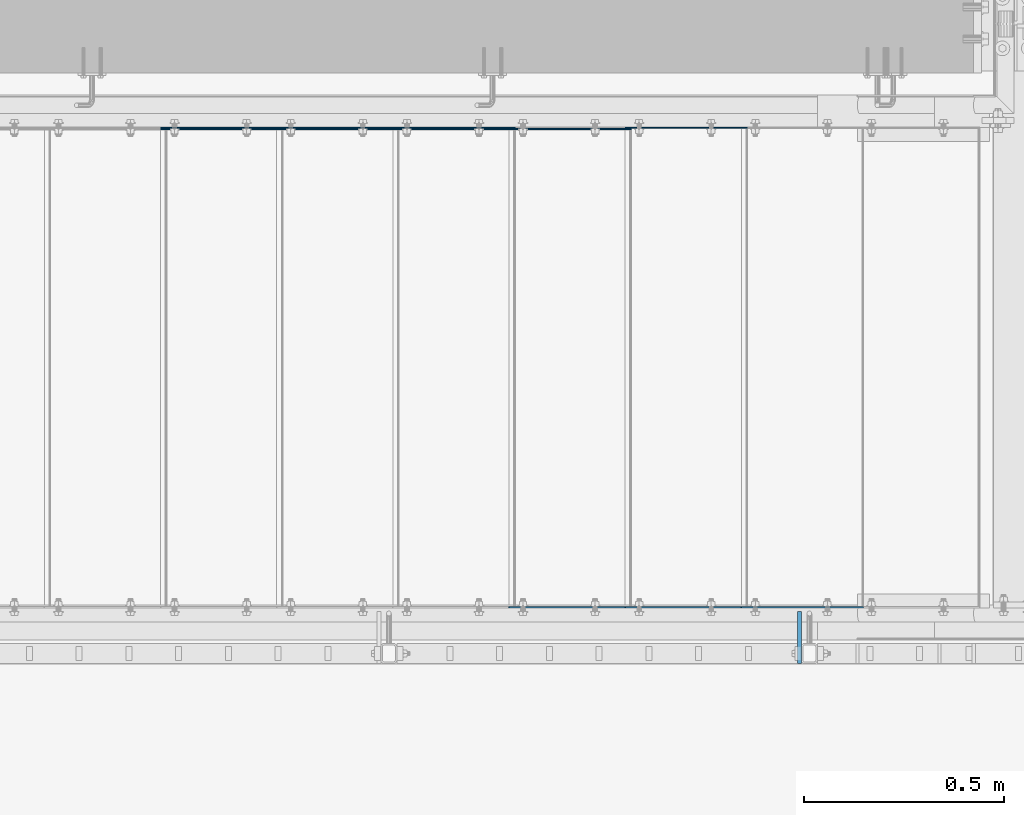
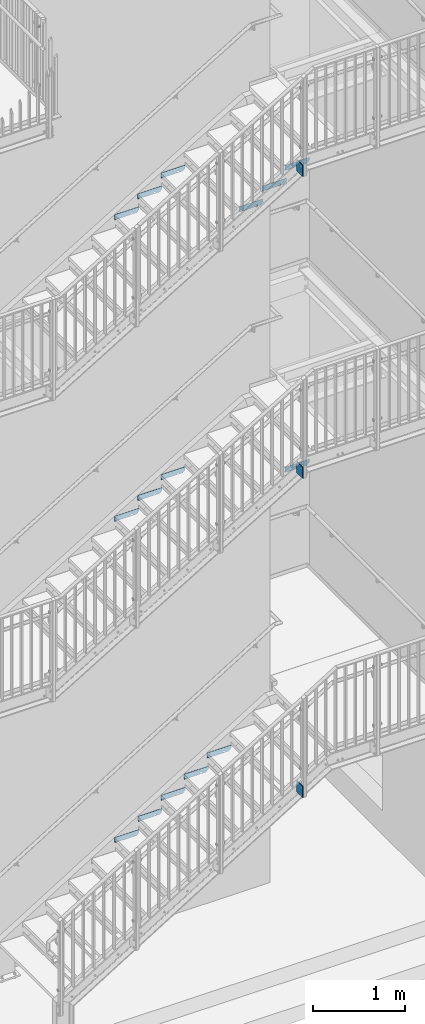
# One storey, part 60 of 410: 18 plates, 36 openings.
"""IFC2X3 building model written with IfcOpenShell, lengths in millimetres."""

from ifc_helpers import new_model, entity, si_unit, converted_unit, point, frame, frame_2d, origin, origin_with_axes, origin_2d_with_axis, place, context, project, spatial, polyline, circle_curve, line_curve, trimmed, segment, composite_curve, circle, outline, extrude, material, layer, layer_set, element, save


model = new_model("IFC2X3")

# Units and contexts
model_context = context("Model", 3, precision=1e-09, world=origin_with_axes())
ifc_project = project(units=[si_unit("LENGTHUNIT", "METRE", prefix="MILLI"), si_unit("AREAUNIT", "SQUARE_METRE"), si_unit("VOLUMEUNIT", "CUBIC_METRE"), converted_unit("PLANEANGLEUNIT", "DEGREE", entity("IfcPlaneAngleMeasure", 0.01745329), si_unit("PLANEANGLEUNIT", "RADIAN"), dimensions=[0, 0, 0, 0, 0, 0, 0])], contexts=[model_context])

# Site, building, storey
site_placement = place(None, origin_with_axes())
site = spatial("IfcSite", under=ifc_project, at=site_placement, Name="mKR Teilneubau & Sanierung BA1 - Ostfildern", CompositionType="ELEMENT")
building_placement = place(site_placement, origin_with_axes())
building = spatial("IfcBuilding", under=site, at=building_placement, Name="Struktur 1", CompositionType="ELEMENT")
storey_placement = place(building_placement, origin_with_axes())
storey = spatial("IfcBuildingStorey", under=building, at=storey_placement, Name="Default Storey", CompositionType="ELEMENT", Elevation=0.0)

# Plate, openings
ifc_material = material(Name="S235JR")
ifc_layer_1 = layer(ifc_material, 3.0)
ifc_layer_set_1 = layer_set([ifc_layer_1], Name="S235JR")
plate_1_placement = place(None, frame((-255.0, 16716.999999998, -3397.2), z_axis=(0.0, -1.0, 0.0), x_axis=(0.0, 0.0, -1.0)))
plate_1 = element("IfcPlate", 1, at=plate_1_placement, inside=storey, material=ifc_layer_set_1, Name="Grate_Step#2", ObjectType="Grate_Step#2", context=model_context, shape_type="SweptSolid", body=[
    extrude(outline(polyline([(0.0, 0.0), (70.0, 0.0), (70.0, 275.0), (40.0, 305.0), (0.0, 305.0), (0.0, 0.0)])), origin_with_axes(), (0.0, 0.0, 1.0), 3.0),
])
opening_1_placement = place(plate_1_placement, frame((55.0, 35.0, 3.5), z_axis=(0.0, 0.0, -1.0), x_axis=(0.0, 1.0, 0.0)))
element("IfcOpeningElement", 2, at=opening_1_placement, cuts=plate_1, ObjectType="Opening", context=model_context, shape_type="SweptSolid", body=[
    extrude(circle(Radius=7.001, at=origin_2d_with_axis()), origin(), (0.0, 0.0, 1.0), 4.0),
])
opening_2_placement = place(plate_1_placement, frame((55.0, 215.0, 3.5), z_axis=(0.0, 0.0, -1.0), x_axis=(0.0, 1.0, 0.0)))
element("IfcOpeningElement", 3, at=opening_2_placement, cuts=plate_1, ObjectType="Opening", context=model_context, shape_type="SweptSolid", body=[
    extrude(outline(composite_curve([segment(trimmed(line_curve((-9.5, -7.001), (1.0, 0.0), 19.0), [point((-9.5, -7.001))], [point((9.5, -7.001))], True, "CARTESIAN"), True, "CONTINUOUS"), segment(trimmed(circle_curve(frame_2d((9.5, 0.0), x_axis=(1.0, 0.0)), 7.001), [point((9.5, -7.001))], [point((9.5, 7.001))], True, "CARTESIAN"), True, "CONTINUOUS"), segment(trimmed(line_curve((9.5, 7.001), (-1.0, 0.0), 19.0), [point((9.5, 7.001))], [point((-9.5, 7.001))], True, "CARTESIAN"), True, "CONTINUOUS"), segment(trimmed(circle_curve(frame_2d((-9.5, 0.0), x_axis=(1.0, 0.0)), 7.001), [point((-9.5, 7.001))], [point((-9.5, -7.001))], True, "CARTESIAN"), True, "CONTINUOUS")], self_intersect=False)), origin(), (0.0, 0.0, 1.0), 4.0),
])

plate_2_placement = place(None, frame((35.0, 16716.999999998, -3218.4), z_axis=(0.0, -1.0, 0.0), x_axis=(0.0, 0.0, -1.0)))
plate_2 = element("IfcPlate", 4, at=plate_2_placement, inside=storey, material=ifc_layer_set_1, Name="Grate_Step#2", ObjectType="Grate_Step#2", context=model_context, shape_type="SweptSolid", body=[
    extrude(outline(polyline([(0.0, 0.0), (70.0, 0.0), (70.0, 275.0), (40.0, 305.0), (0.0, 305.0), (0.0, 0.0)])), origin_with_axes(), (0.0, 0.0, 1.0), 3.0),
])
opening_3_placement = place(plate_2_placement, frame((55.0, 215.0, 3.5), z_axis=(0.0, 0.0, -1.0), x_axis=(0.0, 1.0, 0.0)))
element("IfcOpeningElement", 5, at=opening_3_placement, cuts=plate_2, ObjectType="Opening", context=model_context, shape_type="SweptSolid", body=[
    extrude(outline(composite_curve([segment(trimmed(line_curve((-9.5, -7.001), (1.0, 0.0), 19.0), [point((-9.5, -7.001))], [point((9.5, -7.001))], True, "CARTESIAN"), True, "CONTINUOUS"), segment(trimmed(circle_curve(frame_2d((9.5, 0.0), x_axis=(1.0, 0.0)), 7.001), [point((9.5, -7.001))], [point((9.5, 7.001))], True, "CARTESIAN"), True, "CONTINUOUS"), segment(trimmed(line_curve((9.5, 7.001), (-1.0, 0.0), 19.0), [point((9.5, 7.001))], [point((-9.5, 7.001))], True, "CARTESIAN"), True, "CONTINUOUS"), segment(trimmed(circle_curve(frame_2d((-9.5, 0.0), x_axis=(1.0, 0.0)), 7.001), [point((-9.5, 7.001))], [point((-9.5, -7.001))], True, "CARTESIAN"), True, "CONTINUOUS")], self_intersect=False)), origin(), (0.0, 0.0, 1.0), 4.0),
])
opening_4_placement = place(plate_2_placement, frame((55.0, 35.0, 3.5), z_axis=(0.0, 0.0, -1.0), x_axis=(0.0, 1.0, 0.0)))
element("IfcOpeningElement", 6, at=opening_4_placement, cuts=plate_2, ObjectType="Opening", context=model_context, shape_type="SweptSolid", body=[
    extrude(circle(Radius=7.001, at=origin_2d_with_axis()), origin(), (0.0, 0.0, 1.0), 4.0),
])

plate_3_placement = place(None, frame((325.0, 16716.999999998, -3039.6), z_axis=(0.0, -1.0, 0.0), x_axis=(0.0, 0.0, -1.0)))
plate_3 = element("IfcPlate", 7, at=plate_3_placement, inside=storey, material=ifc_layer_set_1, Name="Grate_Step#2", ObjectType="Grate_Step#2", context=model_context, shape_type="SweptSolid", body=[
    extrude(outline(polyline([(0.0, 0.0), (70.0, 0.0), (70.0, 275.0), (40.0, 305.0), (0.0, 305.0), (0.0, 0.0)])), origin_with_axes(), (0.0, 0.0, 1.0), 3.0),
])
opening_5_placement = place(plate_3_placement, frame((55.0, 35.0, 3.5), z_axis=(0.0, 0.0, -1.0), x_axis=(0.0, 1.0, 0.0)))
element("IfcOpeningElement", 8, at=opening_5_placement, cuts=plate_3, ObjectType="Opening", context=model_context, shape_type="SweptSolid", body=[
    extrude(circle(Radius=7.001, at=origin_2d_with_axis()), origin(), (0.0, 0.0, 1.0), 4.0),
])
opening_6_placement = place(plate_3_placement, frame((55.0, 215.0, 3.5), z_axis=(0.0, 0.0, -1.0), x_axis=(0.0, 1.0, 0.0)))
element("IfcOpeningElement", 9, at=opening_6_placement, cuts=plate_3, ObjectType="Opening", context=model_context, shape_type="SweptSolid", body=[
    extrude(outline(composite_curve([segment(trimmed(line_curve((-9.5, -7.001), (1.0, 0.0), 19.0), [point((-9.5, -7.001))], [point((9.5, -7.001))], True, "CARTESIAN"), True, "CONTINUOUS"), segment(trimmed(circle_curve(frame_2d((9.5, 0.0), x_axis=(1.0, 0.0)), 7.001), [point((9.5, -7.001))], [point((9.5, 7.001))], True, "CARTESIAN"), True, "CONTINUOUS"), segment(trimmed(line_curve((9.5, 7.001), (-1.0, 0.0), 19.0), [point((9.5, 7.001))], [point((-9.5, 7.001))], True, "CARTESIAN"), True, "CONTINUOUS"), segment(trimmed(circle_curve(frame_2d((-9.5, 0.0), x_axis=(1.0, 0.0)), 7.001), [point((-9.5, 7.001))], [point((-9.5, -7.001))], True, "CARTESIAN"), True, "CONTINUOUS")], self_intersect=False)), origin(), (0.0, 0.0, 1.0), 4.0),
])

plate_4_placement = place(None, frame((615.0, 16716.999999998, -2860.8), z_axis=(0.0, -1.0, 0.0), x_axis=(0.0, 0.0, -1.0)))
plate_4 = element("IfcPlate", 10, at=plate_4_placement, inside=storey, material=ifc_layer_set_1, Name="Grate_Step#2", ObjectType="Grate_Step#2", context=model_context, shape_type="SweptSolid", body=[
    extrude(outline(polyline([(0.0, 0.0), (70.0, 0.0), (70.0, 275.0), (40.0, 305.0), (0.0, 305.0), (0.0, 0.0)])), origin_with_axes(), (0.0, 0.0, 1.0), 3.0),
])
opening_7_placement = place(plate_4_placement, frame((55.0, 35.0, 3.5), z_axis=(0.0, 0.0, -1.0), x_axis=(0.0, 1.0, 0.0)))
element("IfcOpeningElement", 11, at=opening_7_placement, cuts=plate_4, ObjectType="Opening", context=model_context, shape_type="SweptSolid", body=[
    extrude(circle(Radius=7.001, at=origin_2d_with_axis()), origin(), (0.0, 0.0, 1.0), 4.0),
])
opening_8_placement = place(plate_4_placement, frame((55.0, 215.0, 3.5), z_axis=(0.0, 0.0, -1.0), x_axis=(0.0, 1.0, 0.0)))
element("IfcOpeningElement", 12, at=opening_8_placement, cuts=plate_4, ObjectType="Opening", context=model_context, shape_type="SweptSolid", body=[
    extrude(outline(composite_curve([segment(trimmed(line_curve((-9.5, -7.001), (1.0, 0.0), 19.0), [point((-9.5, -7.001))], [point((9.5, -7.001))], True, "CARTESIAN"), True, "CONTINUOUS"), segment(trimmed(circle_curve(frame_2d((9.5, 0.0), x_axis=(1.0, 0.0)), 7.001), [point((9.5, -7.001))], [point((9.5, 7.001))], True, "CARTESIAN"), True, "CONTINUOUS"), segment(trimmed(line_curve((9.5, 7.001), (-1.0, 0.0), 19.0), [point((9.5, 7.001))], [point((-9.5, 7.001))], True, "CARTESIAN"), True, "CONTINUOUS"), segment(trimmed(circle_curve(frame_2d((-9.5, 0.0), x_axis=(1.0, 0.0)), 7.001), [point((-9.5, 7.001))], [point((-9.5, -7.001))], True, "CARTESIAN"), True, "CONTINUOUS")], self_intersect=False)), origin(), (0.0, 0.0, 1.0), 4.0),
])

plate_5_placement = place(None, frame((905.0, 16719.999999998, -2682.0), z_axis=(0.0, -1.0, 0.0), x_axis=(0.0, 0.0, -1.0)))
plate_5 = element("IfcPlate", 13, at=plate_5_placement, inside=storey, material=ifc_layer_set_1, Name="Grate_Step#2", ObjectType="Grate_Step#2", context=model_context, shape_type="SweptSolid", body=[
    extrude(outline(polyline([(0.0, 0.0), (70.0, 0.0), (70.0, 275.0), (40.0, 305.0), (0.0, 305.0), (0.0, 0.0)])), origin_with_axes(), (0.0, 0.0, 1.0), 3.0),
])
opening_9_placement = place(plate_5_placement, frame((55.0, 215.0, 3.5), z_axis=(0.0, 0.0, -1.0), x_axis=(0.0, 1.0, 0.0)))
element("IfcOpeningElement", 14, at=opening_9_placement, cuts=plate_5, ObjectType="Opening", context=model_context, shape_type="SweptSolid", body=[
    extrude(outline(composite_curve([segment(trimmed(line_curve((-9.5, -7.001), (1.0, 0.0), 19.0), [point((-9.5, -7.001))], [point((9.5, -7.001))], True, "CARTESIAN"), True, "CONTINUOUS"), segment(trimmed(circle_curve(frame_2d((9.5, 0.0), x_axis=(1.0, 0.0)), 7.001), [point((9.5, -7.001))], [point((9.5, 7.001))], True, "CARTESIAN"), True, "CONTINUOUS"), segment(trimmed(line_curve((9.5, 7.001), (-1.0, 0.0), 19.0), [point((9.5, 7.001))], [point((-9.5, 7.001))], True, "CARTESIAN"), True, "CONTINUOUS"), segment(trimmed(circle_curve(frame_2d((-9.5, 0.0), x_axis=(1.0, 0.0)), 7.001), [point((-9.5, 7.001))], [point((-9.5, -7.001))], True, "CARTESIAN"), True, "CONTINUOUS")], self_intersect=False)), origin(), (0.0, 0.0, 1.0), 4.0),
])
opening_10_placement = place(plate_5_placement, frame((55.0, 35.0, 3.5), z_axis=(0.0, 0.0, -1.0), x_axis=(0.0, 1.0, 0.0)))
element("IfcOpeningElement", 15, at=opening_10_placement, cuts=plate_5, ObjectType="Opening", context=model_context, shape_type="SweptSolid", body=[
    extrude(circle(Radius=7.001, at=origin_2d_with_axis()), origin(), (0.0, 0.0, 1.0), 4.0),
])

plate_6_placement = place(None, frame((-255.0, 16719.999999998, 869.5652175), z_axis=(0.0, -1.0, 0.0), x_axis=(0.0, 0.0, -1.0)))
plate_6 = element("IfcPlate", 16, at=plate_6_placement, inside=storey, material=ifc_layer_set_1, Name="Grate_Step#2", ObjectType="Grate_Step#2", context=model_context, shape_type="SweptSolid", body=[
    extrude(outline(polyline([(0.0, 0.0), (70.0, 0.0), (70.0, 275.0), (40.0, 305.0), (0.0, 305.0), (0.0, 0.0)])), origin_with_axes(), (0.0, 0.0, 1.0), 3.0),
])
opening_11_placement = place(plate_6_placement, frame((55.0, 35.0, 3.5), z_axis=(0.0, 0.0, -1.0), x_axis=(0.0, 1.0, 0.0)))
element("IfcOpeningElement", 17, at=opening_11_placement, cuts=plate_6, ObjectType="Opening", context=model_context, shape_type="SweptSolid", body=[
    extrude(circle(Radius=7.001, at=origin_2d_with_axis()), origin(), (0.0, 0.0, 1.0), 4.0),
])
opening_12_placement = place(plate_6_placement, frame((55.0, 215.0, 3.5), z_axis=(0.0, 0.0, -1.0), x_axis=(0.0, 1.0, 0.0)))
element("IfcOpeningElement", 18, at=opening_12_placement, cuts=plate_6, ObjectType="Opening", context=model_context, shape_type="SweptSolid", body=[
    extrude(outline(composite_curve([segment(trimmed(line_curve((-9.5, -7.001), (1.0, 0.0), 19.0), [point((-9.5, -7.001))], [point((9.5, -7.001))], True, "CARTESIAN"), True, "CONTINUOUS"), segment(trimmed(circle_curve(frame_2d((9.5, 0.0), x_axis=(1.0, 0.0)), 7.001), [point((9.5, -7.001))], [point((9.5, 7.001))], True, "CARTESIAN"), True, "CONTINUOUS"), segment(trimmed(line_curve((9.5, 7.001), (-1.0, 0.0), 19.0), [point((9.5, 7.001))], [point((-9.5, 7.001))], True, "CARTESIAN"), True, "CONTINUOUS"), segment(trimmed(circle_curve(frame_2d((-9.5, 0.0), x_axis=(1.0, 0.0)), 7.001), [point((-9.5, 7.001))], [point((-9.5, -7.001))], True, "CARTESIAN"), True, "CONTINUOUS")], self_intersect=False)), origin(), (0.0, 0.0, 1.0), 4.0),
])

plate_7_placement = place(None, frame((35.0, 16719.999999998, 1043.478261), z_axis=(0.0, -1.0, 0.0), x_axis=(0.0, 0.0, -1.0)))
plate_7 = element("IfcPlate", 19, at=plate_7_placement, inside=storey, material=ifc_layer_set_1, Name="Grate_Step#2", ObjectType="Grate_Step#2", context=model_context, shape_type="SweptSolid", body=[
    extrude(outline(polyline([(0.0, 0.0), (70.0, 0.0), (70.0, 275.0), (40.0, 305.0), (0.0, 305.0), (0.0, 0.0)])), origin_with_axes(), (0.0, 0.0, 1.0), 3.0),
])
opening_13_placement = place(plate_7_placement, frame((55.0, 35.0, 3.5), z_axis=(0.0, 0.0, -1.0), x_axis=(0.0, 1.0, 0.0)))
element("IfcOpeningElement", 20, at=opening_13_placement, cuts=plate_7, ObjectType="Opening", context=model_context, shape_type="SweptSolid", body=[
    extrude(circle(Radius=7.001, at=origin_2d_with_axis()), origin(), (0.0, 0.0, 1.0), 4.0),
])
opening_14_placement = place(plate_7_placement, frame((55.0, 215.0, 3.5), z_axis=(0.0, 0.0, -1.0), x_axis=(0.0, 1.0, 0.0)))
element("IfcOpeningElement", 21, at=opening_14_placement, cuts=plate_7, ObjectType="Opening", context=model_context, shape_type="SweptSolid", body=[
    extrude(outline(composite_curve([segment(trimmed(line_curve((-9.5, -7.001), (1.0, 0.0), 19.0), [point((-9.5, -7.001))], [point((9.5, -7.001))], True, "CARTESIAN"), True, "CONTINUOUS"), segment(trimmed(circle_curve(frame_2d((9.5, 0.0), x_axis=(1.0, 0.0)), 7.001), [point((9.5, -7.001))], [point((9.5, 7.001))], True, "CARTESIAN"), True, "CONTINUOUS"), segment(trimmed(line_curve((9.5, 7.001), (-1.0, 0.0), 19.0), [point((9.5, 7.001))], [point((-9.5, 7.001))], True, "CARTESIAN"), True, "CONTINUOUS"), segment(trimmed(circle_curve(frame_2d((-9.5, 0.0), x_axis=(1.0, 0.0)), 7.001), [point((-9.5, 7.001))], [point((-9.5, -7.001))], True, "CARTESIAN"), True, "CONTINUOUS")], self_intersect=False)), origin(), (0.0, 0.0, 1.0), 4.0),
])

plate_8_placement = place(None, frame((325.0, 16719.999999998, 1217.3913045), z_axis=(0.0, -1.0, 0.0), x_axis=(0.0, 0.0, -1.0)))
plate_8 = element("IfcPlate", 22, at=plate_8_placement, inside=storey, material=ifc_layer_set_1, Name="Grate_Step#2", ObjectType="Grate_Step#2", context=model_context, shape_type="SweptSolid", body=[
    extrude(outline(polyline([(0.0, 0.0), (70.0, 0.0), (70.0, 275.0), (40.0, 305.0), (0.0, 305.0), (0.0, 0.0)])), origin_with_axes(), (0.0, 0.0, 1.0), 3.0),
])
opening_15_placement = place(plate_8_placement, frame((55.0, 215.0, 3.5), z_axis=(0.0, 0.0, -1.0), x_axis=(0.0, 1.0, 0.0)))
element("IfcOpeningElement", 23, at=opening_15_placement, cuts=plate_8, ObjectType="Opening", context=model_context, shape_type="SweptSolid", body=[
    extrude(outline(composite_curve([segment(trimmed(line_curve((-9.5, -7.001), (1.0, 0.0), 19.0), [point((-9.5, -7.001))], [point((9.5, -7.001))], True, "CARTESIAN"), True, "CONTINUOUS"), segment(trimmed(circle_curve(frame_2d((9.5, 0.0), x_axis=(1.0, 0.0)), 7.001), [point((9.5, -7.001))], [point((9.5, 7.001))], True, "CARTESIAN"), True, "CONTINUOUS"), segment(trimmed(line_curve((9.5, 7.001), (-1.0, 0.0), 19.0), [point((9.5, 7.001))], [point((-9.5, 7.001))], True, "CARTESIAN"), True, "CONTINUOUS"), segment(trimmed(circle_curve(frame_2d((-9.5, 0.0), x_axis=(1.0, 0.0)), 7.001), [point((-9.5, 7.001))], [point((-9.5, -7.001))], True, "CARTESIAN"), True, "CONTINUOUS")], self_intersect=False)), origin(), (0.0, 0.0, 1.0), 4.0),
])
opening_16_placement = place(plate_8_placement, frame((55.0, 35.0, 3.5), z_axis=(0.0, 0.0, -1.0), x_axis=(0.0, 1.0, 0.0)))
element("IfcOpeningElement", 24, at=opening_16_placement, cuts=plate_8, ObjectType="Opening", context=model_context, shape_type="SweptSolid", body=[
    extrude(circle(Radius=7.001, at=origin_2d_with_axis()), origin(), (0.0, 0.0, 1.0), 4.0),
])

plate_9_placement = place(None, frame((1195.0, 15522.999999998, 1739.130435), z_axis=(0.0, -1.0, 0.0), x_axis=(0.0, 0.0, -1.0)))
plate_9 = element("IfcPlate", 25, at=plate_9_placement, inside=storey, material=ifc_layer_set_1, Name="Grate_Step#3", ObjectType="Grate_Step#3", context=model_context, shape_type="SweptSolid", body=[
    extrude(outline(polyline([(0.0, 0.0), (70.0, 0.0), (70.0, 275.0), (40.0, 305.0), (0.0, 305.0), (0.0, 0.0)])), origin_with_axes(), (0.0, 0.0, 1.0), 3.0),
])
opening_17_placement = place(plate_9_placement, frame((55.0, 215.0, -0.5), z_axis=(0.0, 0.0, 1.0), x_axis=(0.0, 1.0, 0.0)))
element("IfcOpeningElement", 26, at=opening_17_placement, cuts=plate_9, ObjectType="Opening", context=model_context, shape_type="SweptSolid", body=[
    extrude(outline(composite_curve([segment(trimmed(line_curve((-9.5, -7.001), (1.0, 0.0), 19.0), [point((-9.5, -7.001))], [point((9.5, -7.001))], True, "CARTESIAN"), True, "CONTINUOUS"), segment(trimmed(circle_curve(frame_2d((9.5, 0.0), x_axis=(1.0, 0.0)), 7.001), [point((9.5, -7.001))], [point((9.5, 7.001))], True, "CARTESIAN"), True, "CONTINUOUS"), segment(trimmed(line_curve((9.5, 7.001), (-1.0, 0.0), 19.0), [point((9.5, 7.001))], [point((-9.5, 7.001))], True, "CARTESIAN"), True, "CONTINUOUS"), segment(trimmed(circle_curve(frame_2d((-9.5, 0.0), x_axis=(1.0, 0.0)), 7.001), [point((-9.5, 7.001))], [point((-9.5, -7.001))], True, "CARTESIAN"), True, "CONTINUOUS")], self_intersect=False)), origin(), (0.0, 0.0, 1.0), 4.0),
])
opening_18_placement = place(plate_9_placement, frame((55.0, 35.0, -0.5), z_axis=(0.0, 0.0, 1.0), x_axis=(0.0, 1.0, 0.0)))
element("IfcOpeningElement", 27, at=opening_18_placement, cuts=plate_9, ObjectType="Opening", context=model_context, shape_type="SweptSolid", body=[
    extrude(circle(Radius=7.001, at=origin_2d_with_axis()), origin(), (0.0, 0.0, 1.0), 4.0),
])

plate_10_placement = place(None, frame((-255.0, 16719.999999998, 4875.0), z_axis=(0.0, -1.0, 0.0), x_axis=(0.0, 0.0, -1.0)))
plate_10 = element("IfcPlate", 28, at=plate_10_placement, inside=storey, material=ifc_layer_set_1, Name="Grate_Step#2", ObjectType="Grate_Step#2", context=model_context, shape_type="SweptSolid", body=[
    extrude(outline(polyline([(0.0, 0.0), (70.0, 0.0), (70.0, 275.0), (40.0, 305.0), (0.0, 305.0), (0.0, 0.0)])), origin_with_axes(), (0.0, 0.0, 1.0), 3.0),
])
opening_19_placement = place(plate_10_placement, frame((55.0, 35.0, 3.5), z_axis=(0.0, 0.0, -1.0), x_axis=(0.0, 1.0, 0.0)))
element("IfcOpeningElement", 29, at=opening_19_placement, cuts=plate_10, ObjectType="Opening", context=model_context, shape_type="SweptSolid", body=[
    extrude(circle(Radius=7.001, at=origin_2d_with_axis()), origin(), (0.0, 0.0, 1.0), 4.0),
])
opening_20_placement = place(plate_10_placement, frame((55.0, 215.0, 3.5), z_axis=(0.0, 0.0, -1.0), x_axis=(0.0, 1.0, 0.0)))
element("IfcOpeningElement", 30, at=opening_20_placement, cuts=plate_10, ObjectType="Opening", context=model_context, shape_type="SweptSolid", body=[
    extrude(outline(composite_curve([segment(trimmed(line_curve((-9.5, -7.001), (1.0, 0.0), 19.0), [point((-9.5, -7.001))], [point((9.5, -7.001))], True, "CARTESIAN"), True, "CONTINUOUS"), segment(trimmed(circle_curve(frame_2d((9.5, 0.0), x_axis=(1.0, 0.0)), 7.001), [point((9.5, -7.001))], [point((9.5, 7.001))], True, "CARTESIAN"), True, "CONTINUOUS"), segment(trimmed(line_curve((9.5, 7.001), (-1.0, 0.0), 19.0), [point((9.5, 7.001))], [point((-9.5, 7.001))], True, "CARTESIAN"), True, "CONTINUOUS"), segment(trimmed(circle_curve(frame_2d((-9.5, 0.0), x_axis=(1.0, 0.0)), 7.001), [point((-9.5, 7.001))], [point((-9.5, -7.001))], True, "CARTESIAN"), True, "CONTINUOUS")], self_intersect=False)), origin(), (0.0, 0.0, 1.0), 4.0),
])

plate_11_placement = place(None, frame((35.0, 16719.999999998, 5050.0), z_axis=(0.0, -1.0, 0.0), x_axis=(0.0, 0.0, -1.0)))
plate_11 = element("IfcPlate", 31, at=plate_11_placement, inside=storey, material=ifc_layer_set_1, Name="Grate_Step#2", ObjectType="Grate_Step#2", context=model_context, shape_type="SweptSolid", body=[
    extrude(outline(polyline([(0.0, 0.0), (70.0, 0.0), (70.0, 275.0), (40.0, 305.0), (0.0, 305.0), (0.0, 0.0)])), origin_with_axes(), (0.0, 0.0, 1.0), 3.0),
])
opening_21_placement = place(plate_11_placement, frame((55.0, 35.0, 3.5), z_axis=(0.0, 0.0, -1.0), x_axis=(0.0, 1.0, 0.0)))
element("IfcOpeningElement", 32, at=opening_21_placement, cuts=plate_11, ObjectType="Opening", context=model_context, shape_type="SweptSolid", body=[
    extrude(circle(Radius=7.001, at=origin_2d_with_axis()), origin(), (0.0, 0.0, 1.0), 4.0),
])
opening_22_placement = place(plate_11_placement, frame((55.0, 215.0, 3.5), z_axis=(0.0, 0.0, -1.0), x_axis=(0.0, 1.0, 0.0)))
element("IfcOpeningElement", 33, at=opening_22_placement, cuts=plate_11, ObjectType="Opening", context=model_context, shape_type="SweptSolid", body=[
    extrude(outline(composite_curve([segment(trimmed(line_curve((-9.5, -7.001), (1.0, 0.0), 19.0), [point((-9.5, -7.001))], [point((9.5, -7.001))], True, "CARTESIAN"), True, "CONTINUOUS"), segment(trimmed(circle_curve(frame_2d((9.5, 0.0), x_axis=(1.0, 0.0)), 7.001), [point((9.5, -7.001))], [point((9.5, 7.001))], True, "CARTESIAN"), True, "CONTINUOUS"), segment(trimmed(line_curve((9.5, 7.001), (-1.0, 0.0), 19.0), [point((9.5, 7.001))], [point((-9.5, 7.001))], True, "CARTESIAN"), True, "CONTINUOUS"), segment(trimmed(circle_curve(frame_2d((-9.5, 0.0), x_axis=(1.0, 0.0)), 7.001), [point((-9.5, 7.001))], [point((-9.5, -7.001))], True, "CARTESIAN"), True, "CONTINUOUS")], self_intersect=False)), origin(), (0.0, 0.0, 1.0), 4.0),
])

plate_12_placement = place(None, frame((325.0, 16719.999999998, 5225.0), z_axis=(0.0, -1.0, 0.0), x_axis=(0.0, 0.0, -1.0)))
plate_12 = element("IfcPlate", 34, at=plate_12_placement, inside=storey, material=ifc_layer_set_1, Name="Grate_Step#2", ObjectType="Grate_Step#2", context=model_context, shape_type="SweptSolid", body=[
    extrude(outline(polyline([(0.0, 0.0), (70.0, 0.0), (70.0, 275.0), (40.0, 305.0), (0.0, 305.0), (0.0, 0.0)])), origin_with_axes(), (0.0, 0.0, 1.0), 3.0),
])
opening_23_placement = place(plate_12_placement, frame((55.0, 35.0, 3.5), z_axis=(0.0, 0.0, -1.0), x_axis=(0.0, 1.0, 0.0)))
element("IfcOpeningElement", 35, at=opening_23_placement, cuts=plate_12, ObjectType="Opening", context=model_context, shape_type="SweptSolid", body=[
    extrude(circle(Radius=7.001, at=origin_2d_with_axis()), origin(), (0.0, 0.0, 1.0), 4.0),
])
opening_24_placement = place(plate_12_placement, frame((55.0, 215.0, 3.5), z_axis=(0.0, 0.0, -1.0), x_axis=(0.0, 1.0, 0.0)))
element("IfcOpeningElement", 36, at=opening_24_placement, cuts=plate_12, ObjectType="Opening", context=model_context, shape_type="SweptSolid", body=[
    extrude(outline(composite_curve([segment(trimmed(line_curve((-9.5, -7.001), (1.0, 0.0), 19.0), [point((-9.5, -7.001))], [point((9.5, -7.001))], True, "CARTESIAN"), True, "CONTINUOUS"), segment(trimmed(circle_curve(frame_2d((9.5, 0.0), x_axis=(1.0, 0.0)), 7.001), [point((9.5, -7.001))], [point((9.5, 7.001))], True, "CARTESIAN"), True, "CONTINUOUS"), segment(trimmed(line_curve((9.5, 7.001), (-1.0, 0.0), 19.0), [point((9.5, 7.001))], [point((-9.5, 7.001))], True, "CARTESIAN"), True, "CONTINUOUS"), segment(trimmed(circle_curve(frame_2d((-9.5, 0.0), x_axis=(1.0, 0.0)), 7.001), [point((-9.5, 7.001))], [point((-9.5, -7.001))], True, "CARTESIAN"), True, "CONTINUOUS")], self_intersect=False)), origin(), (0.0, 0.0, 1.0), 4.0),
])

plate_13_placement = place(None, frame((615.0, 15522.999999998, 5400.0), z_axis=(0.0, -1.0, 0.0), x_axis=(0.0, 0.0, -1.0)))
plate_13 = element("IfcPlate", 37, at=plate_13_placement, inside=storey, material=ifc_layer_set_1, Name="Grate_Step#3", ObjectType="Grate_Step#3", context=model_context, shape_type="SweptSolid", body=[
    extrude(outline(polyline([(0.0, 0.0), (70.0, 0.0), (70.0, 275.0), (40.0, 305.0), (0.0, 305.0), (0.0, 0.0)])), origin_with_axes(), (0.0, 0.0, 1.0), 3.0),
])
opening_25_placement = place(plate_13_placement, frame((55.0, 35.0, -0.5), z_axis=(0.0, 0.0, 1.0), x_axis=(0.0, 1.0, 0.0)))
element("IfcOpeningElement", 38, at=opening_25_placement, cuts=plate_13, ObjectType="Opening", context=model_context, shape_type="SweptSolid", body=[
    extrude(circle(Radius=7.001, at=origin_2d_with_axis()), origin(), (0.0, 0.0, 1.0), 4.0),
])
opening_26_placement = place(plate_13_placement, frame((55.0, 215.0, -0.5), z_axis=(0.0, 0.0, 1.0), x_axis=(0.0, 1.0, 0.0)))
element("IfcOpeningElement", 39, at=opening_26_placement, cuts=plate_13, ObjectType="Opening", context=model_context, shape_type="SweptSolid", body=[
    extrude(outline(composite_curve([segment(trimmed(line_curve((-9.5, -7.001), (1.0, 0.0), 19.0), [point((-9.5, -7.001))], [point((9.5, -7.001))], True, "CARTESIAN"), True, "CONTINUOUS"), segment(trimmed(circle_curve(frame_2d((9.5, 0.0), x_axis=(1.0, 0.0)), 7.001), [point((9.5, -7.001))], [point((9.5, 7.001))], True, "CARTESIAN"), True, "CONTINUOUS"), segment(trimmed(line_curve((9.5, 7.001), (-1.0, 0.0), 19.0), [point((9.5, 7.001))], [point((-9.5, 7.001))], True, "CARTESIAN"), True, "CONTINUOUS"), segment(trimmed(circle_curve(frame_2d((-9.5, 0.0), x_axis=(1.0, 0.0)), 7.001), [point((-9.5, 7.001))], [point((-9.5, -7.001))], True, "CARTESIAN"), True, "CONTINUOUS")], self_intersect=False)), origin(), (0.0, 0.0, 1.0), 4.0),
])

plate_14_placement = place(None, frame((905.0, 15522.999999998, 5575.0), z_axis=(0.0, -1.0, 0.0), x_axis=(0.0, 0.0, -1.0)))
plate_14 = element("IfcPlate", 40, at=plate_14_placement, inside=storey, material=ifc_layer_set_1, Name="Grate_Step#3", ObjectType="Grate_Step#3", context=model_context, shape_type="SweptSolid", body=[
    extrude(outline(polyline([(0.0, 0.0), (70.0, 0.0), (70.0, 275.0), (40.0, 305.0), (0.0, 305.0), (0.0, 0.0)])), origin_with_axes(), (0.0, 0.0, 1.0), 3.0),
])
opening_27_placement = place(plate_14_placement, frame((55.0, 215.0, -0.5), z_axis=(0.0, 0.0, 1.0), x_axis=(0.0, 1.0, 0.0)))
element("IfcOpeningElement", 41, at=opening_27_placement, cuts=plate_14, ObjectType="Opening", context=model_context, shape_type="SweptSolid", body=[
    extrude(outline(composite_curve([segment(trimmed(line_curve((-9.5, -7.001), (1.0, 0.0), 19.0), [point((-9.5, -7.001))], [point((9.5, -7.001))], True, "CARTESIAN"), True, "CONTINUOUS"), segment(trimmed(circle_curve(frame_2d((9.5, 0.0), x_axis=(1.0, 0.0)), 7.001), [point((9.5, -7.001))], [point((9.5, 7.001))], True, "CARTESIAN"), True, "CONTINUOUS"), segment(trimmed(line_curve((9.5, 7.001), (-1.0, 0.0), 19.0), [point((9.5, 7.001))], [point((-9.5, 7.001))], True, "CARTESIAN"), True, "CONTINUOUS"), segment(trimmed(circle_curve(frame_2d((-9.5, 0.0), x_axis=(1.0, 0.0)), 7.001), [point((-9.5, 7.001))], [point((-9.5, -7.001))], True, "CARTESIAN"), True, "CONTINUOUS")], self_intersect=False)), origin(), (0.0, 0.0, 1.0), 4.0),
])
opening_28_placement = place(plate_14_placement, frame((55.0, 35.0, -0.5), z_axis=(0.0, 0.0, 1.0), x_axis=(0.0, 1.0, 0.0)))
element("IfcOpeningElement", 42, at=opening_28_placement, cuts=plate_14, ObjectType="Opening", context=model_context, shape_type="SweptSolid", body=[
    extrude(circle(Radius=7.001, at=origin_2d_with_axis()), origin(), (0.0, 0.0, 1.0), 4.0),
])

plate_15_placement = place(None, frame((1195.0, 15522.999999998, 5750.0), z_axis=(0.0, -1.0, 0.0), x_axis=(0.0, 0.0, -1.0)))
plate_15 = element("IfcPlate", 43, at=plate_15_placement, inside=storey, material=ifc_layer_set_1, Name="Grate_Step#3", ObjectType="Grate_Step#3", context=model_context, shape_type="SweptSolid", body=[
    extrude(outline(polyline([(0.0, 0.0), (70.0, 0.0), (70.0, 275.0), (40.0, 305.0), (0.0, 305.0), (0.0, 0.0)])), origin_with_axes(), (0.0, 0.0, 1.0), 3.0),
])
opening_29_placement = place(plate_15_placement, frame((55.0, 215.0, -0.5), z_axis=(0.0, 0.0, 1.0), x_axis=(0.0, 1.0, 0.0)))
element("IfcOpeningElement", 44, at=opening_29_placement, cuts=plate_15, ObjectType="Opening", context=model_context, shape_type="SweptSolid", body=[
    extrude(outline(composite_curve([segment(trimmed(line_curve((-9.5, -7.001), (1.0, 0.0), 19.0), [point((-9.5, -7.001))], [point((9.5, -7.001))], True, "CARTESIAN"), True, "CONTINUOUS"), segment(trimmed(circle_curve(frame_2d((9.5, 0.0), x_axis=(1.0, 0.0)), 7.001), [point((9.5, -7.001))], [point((9.5, 7.001))], True, "CARTESIAN"), True, "CONTINUOUS"), segment(trimmed(line_curve((9.5, 7.001), (-1.0, 0.0), 19.0), [point((9.5, 7.001))], [point((-9.5, 7.001))], True, "CARTESIAN"), True, "CONTINUOUS"), segment(trimmed(circle_curve(frame_2d((-9.5, 0.0), x_axis=(1.0, 0.0)), 7.001), [point((-9.5, 7.001))], [point((-9.5, -7.001))], True, "CARTESIAN"), True, "CONTINUOUS")], self_intersect=False)), origin(), (0.0, 0.0, 1.0), 4.0),
])
opening_30_placement = place(plate_15_placement, frame((55.0, 35.0, -0.5), z_axis=(0.0, 0.0, 1.0), x_axis=(0.0, 1.0, 0.0)))
element("IfcOpeningElement", 45, at=opening_30_placement, cuts=plate_15, ObjectType="Opening", context=model_context, shape_type="SweptSolid", body=[
    extrude(circle(Radius=7.001, at=origin_2d_with_axis()), origin(), (0.0, 0.0, 1.0), 4.0),
])

ifc_layer_2 = layer(ifc_material, 10.0)
ifc_layer_set_2 = layer_set([ifc_layer_2], Name="S235JR")
plate_16_placement = place(None, frame((1345.001468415, 15445.999999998, 5709.024379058), z_axis=(-1.0, 0.0, 0.0), x_axis=(0.0, -1.0, 0.0)))
plate_16 = element("IfcPlate", 46, at=plate_16_placement, inside=storey, material=ifc_layer_set_2, Name="-", ObjectType="-", context=model_context, shape_type="SweptSolid", body=[
    extrude(outline(polyline([(-65.0, -75.0), (65.0, -75.0), (65.0, 75.0), (-65.0, 75.0), (-65.0, -75.0)])), origin_with_axes(), (0.0, 0.0, 1.0), 10.0),
])
opening_31_placement = place(plate_16_placement, frame((40.0, 0.0, -0.5), z_axis=(0.0, 0.0, 1.0), x_axis=(1.0, 0.0, 0.0)))
element("IfcOpeningElement", 47, at=opening_31_placement, cuts=plate_16, ObjectType="Opening", context=model_context, shape_type="SweptSolid", body=[
    extrude(circle(Radius=7.001, at=frame_2d((0.0, 50.0), x_axis=(1.0, 0.0))), origin(), (0.0, 0.0, 1.0), 11.0),
])
opening_32_placement = place(plate_16_placement, frame((40.0, 0.0, -0.5), z_axis=(0.0, 0.0, 1.0), x_axis=(1.0, 0.0, 0.0)))
element("IfcOpeningElement", 48, at=opening_32_placement, cuts=plate_16, ObjectType="Opening", context=model_context, shape_type="SweptSolid", body=[
    extrude(circle(Radius=7.001, at=frame_2d((0.0, -50.0), x_axis=(1.0, 0.0))), origin(), (0.0, 0.0, 1.0), 11.0),
])

plate_17_placement = place(None, frame((1345.001468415, 15445.999999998, 1697.823862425), z_axis=(-1.0, 0.0, 0.0), x_axis=(0.0, -1.0, 0.0)))
plate_17 = element("IfcPlate", 49, at=plate_17_placement, inside=storey, material=ifc_layer_set_2, Name="-", ObjectType="-", context=model_context, shape_type="SweptSolid", body=[
    extrude(outline(polyline([(-65.0, -75.0), (65.0, -75.0), (65.0, 75.0), (-65.0, 75.0), (-65.0, -75.0)])), origin_with_axes(), (0.0, 0.0, 1.0), 10.0),
])
opening_33_placement = place(plate_17_placement, frame((40.0, 0.0, -0.5), z_axis=(0.0, 0.0, 1.0), x_axis=(1.0, 0.0, 0.0)))
element("IfcOpeningElement", 50, at=opening_33_placement, cuts=plate_17, ObjectType="Opening", context=model_context, shape_type="SweptSolid", body=[
    extrude(circle(Radius=7.001, at=frame_2d((0.0, 50.0), x_axis=(1.0, 0.0))), origin(), (0.0, 0.0, 1.0), 11.0),
])
opening_34_placement = place(plate_17_placement, frame((40.0, 0.0, -0.5), z_axis=(0.0, 0.0, 1.0), x_axis=(1.0, 0.0, 0.0)))
element("IfcOpeningElement", 51, at=opening_34_placement, cuts=plate_17, ObjectType="Opening", context=model_context, shape_type="SweptSolid", body=[
    extrude(circle(Radius=7.001, at=frame_2d((0.0, -50.0), x_axis=(1.0, 0.0))), origin(), (0.0, 0.0, 1.0), 11.0),
])

plate_18_placement = place(None, frame((1345.001468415, 15445.999999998, -2543.026204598), z_axis=(-1.0, 0.0, 0.0), x_axis=(0.0, -1.0, 0.0)))
plate_18 = element("IfcPlate", 52, at=plate_18_placement, inside=storey, material=ifc_layer_set_2, Name="-", ObjectType="-", context=model_context, shape_type="SweptSolid", body=[
    extrude(outline(polyline([(-65.0, -75.0), (65.0, -75.0), (65.0, 75.0), (-65.0, 75.0), (-65.0, -75.0)])), origin_with_axes(), (0.0, 0.0, 1.0), 10.0),
])
opening_35_placement = place(plate_18_placement, frame((40.0, 0.0, -0.5), z_axis=(0.0, 0.0, 1.0), x_axis=(1.0, 0.0, 0.0)))
element("IfcOpeningElement", 53, at=opening_35_placement, cuts=plate_18, ObjectType="Opening", context=model_context, shape_type="SweptSolid", body=[
    extrude(circle(Radius=7.001, at=frame_2d((0.0, 50.0), x_axis=(1.0, 0.0))), origin(), (0.0, 0.0, 1.0), 11.0),
])
opening_36_placement = place(plate_18_placement, frame((40.0, 0.0, -0.5), z_axis=(0.0, 0.0, 1.0), x_axis=(1.0, 0.0, 0.0)))
element("IfcOpeningElement", 54, at=opening_36_placement, cuts=plate_18, ObjectType="Opening", context=model_context, shape_type="SweptSolid", body=[
    extrude(circle(Radius=7.001, at=frame_2d((0.0, -50.0), x_axis=(1.0, 0.0))), origin(), (0.0, 0.0, 1.0), 11.0),
])

save(model, "model.ifc")
